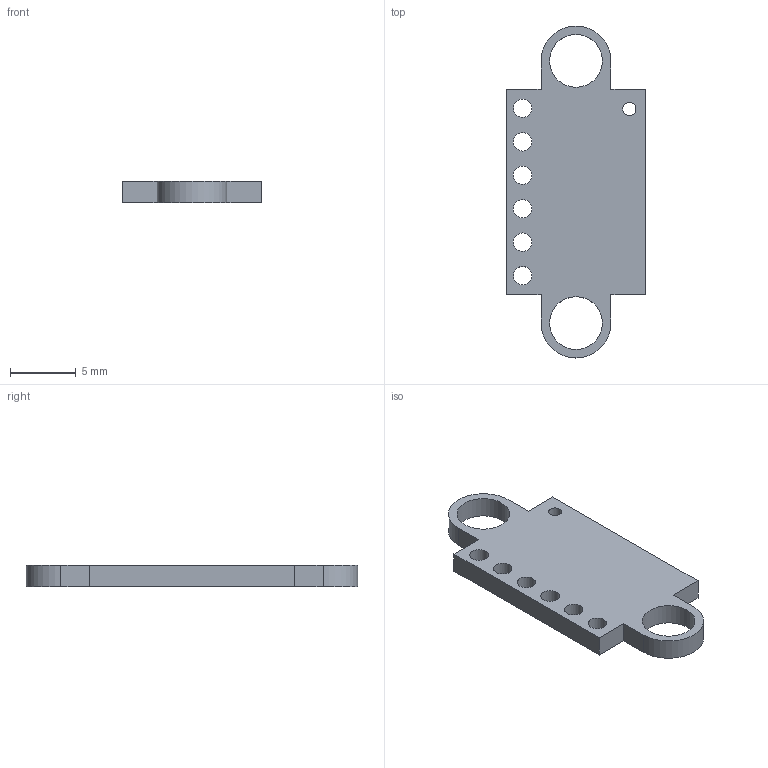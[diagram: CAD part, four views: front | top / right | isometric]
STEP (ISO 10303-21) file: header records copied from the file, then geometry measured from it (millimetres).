
FILE_DESCRIPTION(/* description */ ('STEP AP242 Edition 2','CAx-IF Rec.Pracs.---Representation and Presentation of Product Manufacturing Information (PMI)---4.0---2014-10-13','CAx-IF Rec.Pracs.---3D Tessellated Geometry---0.4---2014-09-14','2;1','CAx-IF Rec.Pracs.---User Defined Attributes---1.5---2016-08-15'),/* implementation_level */ '2;1');
FILE_NAME(/* name */ 'Drone Layout - Surface 327',/* time_stamp */ '2026-10-04T22:22:56Z',/* author */ (''),/* organization */ (''),/* preprocessor_version */ 'ST-DEVELOPER v20',/* originating_system */ 'ONSHAPE BY PTC INC, 1.221',/* authorisation */ ' ');
FILE_SCHEMA (('AP242_MANAGED_MODEL_BASED_3D_ENGINEERING_MIM_LF { 1 0 10303 442 3 1 4 }'));
Length unit declared in the file: metre
Products named in the file (1): VL53L0X:1__Board
Bounding box: 10.6 x 25.2 x 1.6 mm (x, y, z)
Volume: 280.1 mm3; surface area: 544.9 mm2
Topology: 1 solids, 1 shells, 23 faces, 63 edges, 42 vertices
Faces by surface type: plane 12, cylinder 11
Full cylindrical faces by diameter (mm): 1 x1, 1.4 x6, 4 x2
Entity records: 788 total; most frequent: DIRECTION 133, CARTESIAN_POINT 129, ORIENTED_EDGE 126, EDGE_CURVE 63, AXIS2_PLACEMENT_3D 46, VERTEX_POINT 42, LINE 41, VECTOR 41
